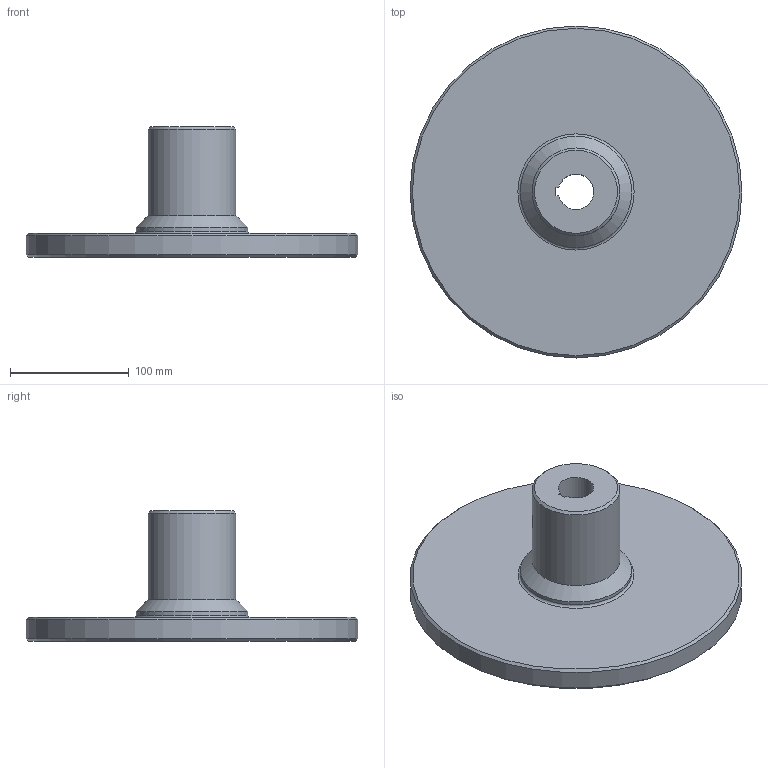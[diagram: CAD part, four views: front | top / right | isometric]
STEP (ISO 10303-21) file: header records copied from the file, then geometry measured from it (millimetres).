
FILE_DESCRIPTION(/* description */ (''),/* implementation_level */ '2;1');
FILE_NAME(/* name */ 'C:\Users\vlakrc01\Desktop\COUPLINGS\04 RKX STEP\RKMWD 20\76548.stp',/* time_stamp */ '2017-03-15T13:28:22+01:00',/* author */ ('vlakrc01'),/* organization */ (''),/* preprocessor_version */ 'ST-DEVELOPER v16.1',/* originating_system */ 'Autodesk Inventor 2016',/* authorisation */ '');
FILE_SCHEMA (('AUTOMOTIVE_DESIGN { 1 0 10303 214 3 1 1 }'));
Length unit declared in the file: millimetre
Products named in the file (1): 76548_Shrinkwrap_1
Bounding box: 280 x 280 x 110 mm (x, y, z)
Volume: 1561106.1 mm3; surface area: 168323.7 mm2
Topology: 1 solids, 3 shells, 25 faces, 55 edges, 35 vertices
Faces by surface type: cone 9, plane 8, cylinder 6, bspline 1, torus 1
Full cylindrical faces by diameter (mm): 70 x2, 74 x1, 94 x1, 280 x1
Entity records: 829 total; most frequent: CARTESIAN_POINT 284, DIRECTION 101, ORIENTED_EDGE 70, EDGE_LOOP 45, AXIS2_PLACEMENT_3D 45, EDGE_CURVE 35, VERTEX_POINT 30, STYLED_ITEM 26
